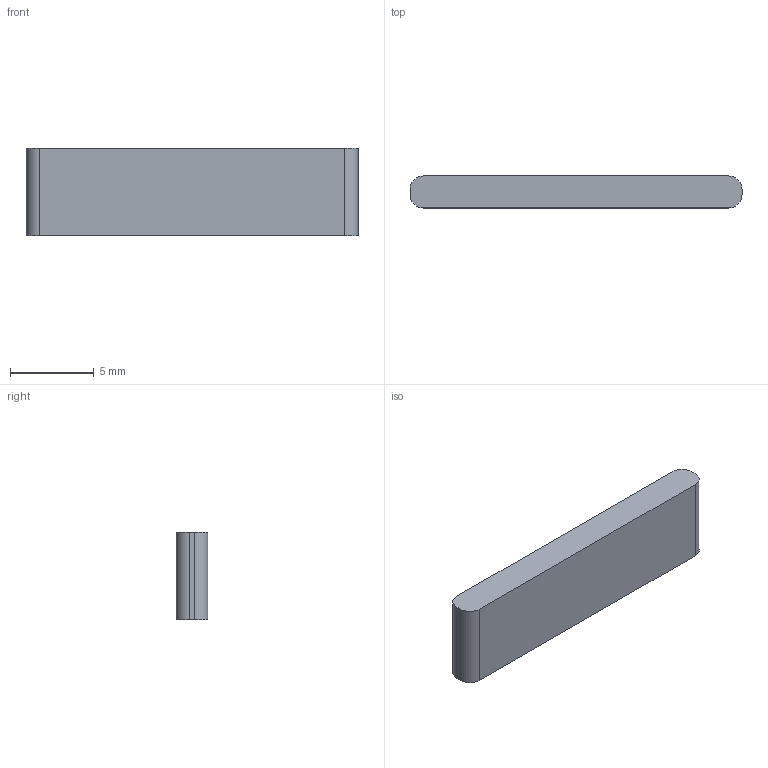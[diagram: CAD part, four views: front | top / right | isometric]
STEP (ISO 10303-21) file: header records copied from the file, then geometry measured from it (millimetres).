
FILE_DESCRIPTION(('Open CASCADE Model'),'2;1');
FILE_NAME('CUT_P02_BATTERY_OPEN_CHANNEL_1','2026-09-15T14:22:12',( 'Author'),('Open CASCADE'),'Open CASCADE STEP processor 7.9', 'build123d','Unknown');
FILE_SCHEMA(('AUTOMOTIVE_DESIGN { 1 0 10303 214 1 1 1 1 }'));
Length unit declared in the file: millimetre
Products named in the file (1): CUT_P02_BATTERY_OPEN_CHANNEL_1
Bounding box: 19.8 x 1.9 x 5.2 mm (x, y, z)
Volume: 192.8 mm3; surface area: 292.7 mm2
Topology: 1 solids, 1 shells, 10 faces, 24 edges, 16 vertices
Faces by surface type: plane 6, cylinder 4
Entity records: 642 total; most frequent: CARTESIAN_POINT 147, DIRECTION 94, LINE 56, VECTOR 56, ORIENTED_EDGE 48, PCURVE 48, DEFINITIONAL_REPRESENTATION 48, EDGE_CURVE 24
